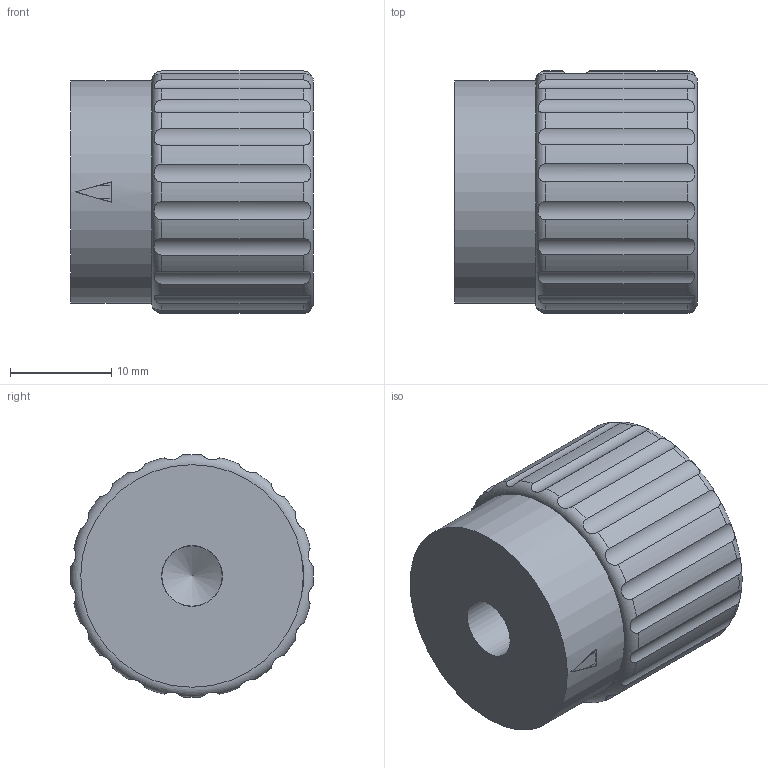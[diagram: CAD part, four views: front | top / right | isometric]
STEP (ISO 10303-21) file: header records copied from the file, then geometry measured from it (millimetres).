
FILE_DESCRIPTION( ( 'STEP AP203' ), '1' );
FILE_NAME( 'C:/Temp/Ganter_Step_05_03_2020/data/1_4/gn_436_1/gn_436_1_a/Stainless Steel-Control knob GN 436.1-24-B6-A-MT.stp', '2020-03-05T10:48:42', ( 'License CC BY-ND 4.0' ), ( 'CADENAS' ), ' ', 'PARTsolutions', ' ' );
FILE_SCHEMA( ( 'CONFIG_CONTROL_DESIGN' ) );
Length unit declared in the file: millimetre
Products named in the file (1): _Stainless Steel-Control knob GN 436.1-24-B6-A-MT
Bounding box: 24 x 24 x 24 mm (x, y, z)
Volume: 9514.6 mm3; surface area: 3056.8 mm2
Topology: 1 solids, 1 shells, 69 faces, 188 edges, 125 vertices
Faces by surface type: cylinder 46, plane 18, cone 3, torus 2
Full cylindrical faces by diameter (mm): 3.242 x2, 5.96 x1, 6 x1, 22 x1
Entity records: 2810 total; most frequent: CARTESIAN_POINT 1137, ORIENTED_EDGE 342, DIRECTION 320, EDGE_CURVE 171, AXIS2_PLACEMENT_3D 124, VERTEX_POINT 119, EDGE_LOOP 83, FACE_OUTER_BOUND 76
